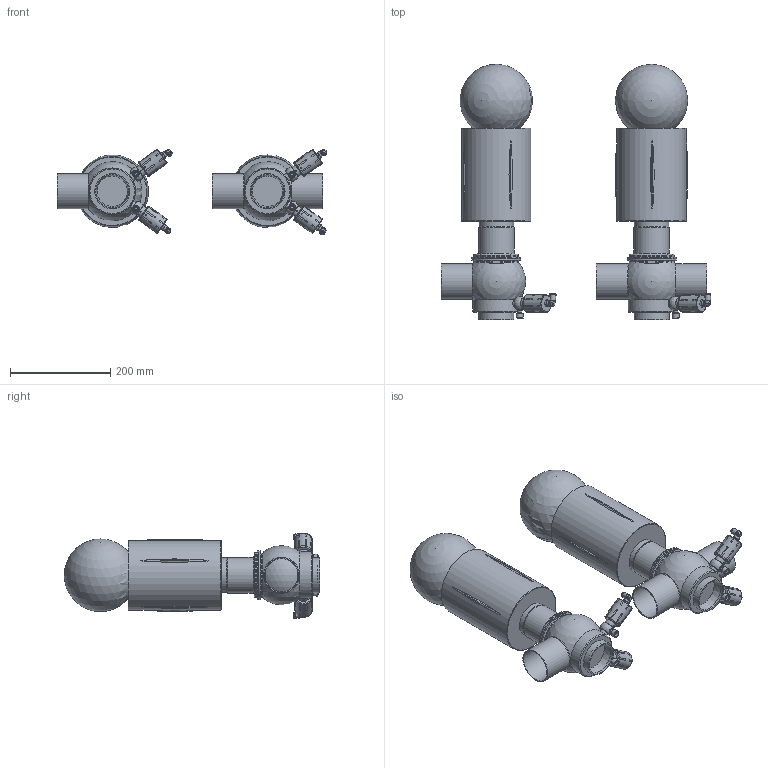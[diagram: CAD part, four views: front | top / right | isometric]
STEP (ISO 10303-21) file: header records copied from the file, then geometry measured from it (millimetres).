
FILE_DESCRIPTION(/* description */ (''),/* implementation_level */ '2;1');
FILE_NAME(/* name */ 'C:\Users\marz-m\Downloads\BZZAW3 3D STEP\BZAW3-DN065x1.5.stp',/* time_stamp */ '2018-09-26T13:55:25+02:00',/* author */ ('marz-m'),/* organization */ (''),/* preprocessor_version */ 'ST-DEVELOPER v17',/* originating_system */ 'Autodesk Inventor 2018',/* authorisation */ '');
FILE_SCHEMA (('AUTOMOTIVE_DESIGN { 1 0 10303 214 3 1 1 }'));
Length unit declared in the file: millimetre
Products named in the file (7): BZAW3-DN065x1.5; TRH5A0065BBA; Assemblaggio-DN065; CIL134; 3DCMP000281; TRH6A0065BBA; Valvolina 3A
Assembly tree (12 placements, depth 2):
  BZAW3-DN065x1.5
    3DCMP000281  x2
    CIL134  x2
    Assemblaggio-DN065  x2
    TRH5A0065BBA
    TRH6A0065BBA
    Valvolina 3A  x4
Bounding box: 538.34 x 509.47 x 170.53 mm (x, y, z)
Volume: 11466754.3 mm3; surface area: 679384.1 mm2
Topology: 12 solids, 12 shells, 643 faces, 1848 edges, 1306 vertices
Faces by surface type: plane 279, cylinder 190, cone 89, bspline 44, torus 30, sphere 11
Full cylindrical faces by diameter (mm): 2 x8, 6 x16, 7 x4, 8 x4, 8.1 x4, 10 x4, 11 x4, 11.5 x4, 12.918 x4, 13.157 x4, 14 x4, 15.9 x4, 16 x4, 20 x4, 22 x4, 35 x4, 66 x5, 69 x2, 70 x5, 71 x2, 90 x2, 93 x2, 98 x4, 139 x2
Entity records: 10389 total; most frequent: CARTESIAN_POINT 3833, DIRECTION 1307, ORIENTED_EDGE 1302, EDGE_CURVE 651, AXIS2_PLACEMENT_3D 553, VERTEX_POINT 472, CIRCLE 308, EDGE_LOOP 275
